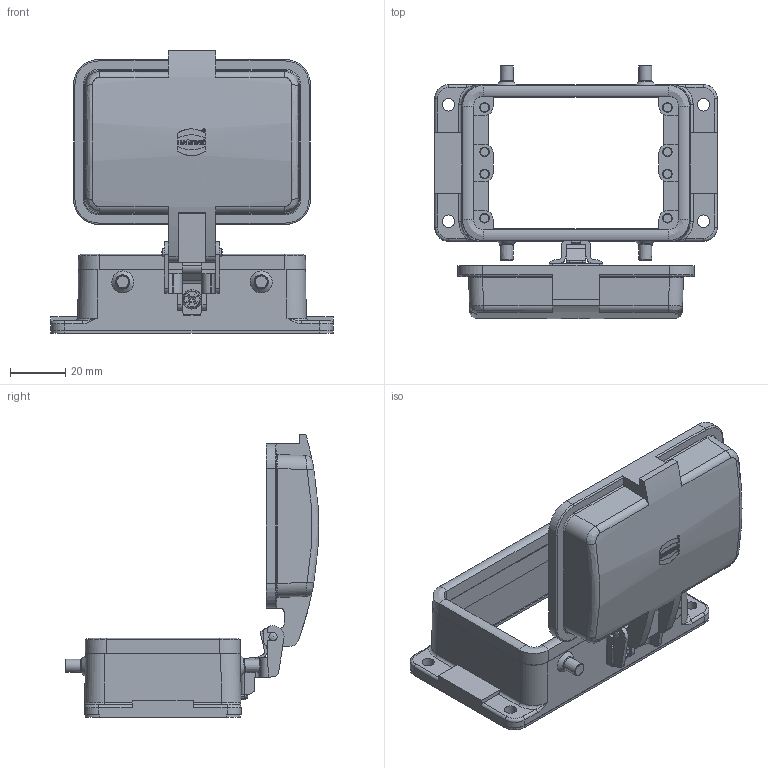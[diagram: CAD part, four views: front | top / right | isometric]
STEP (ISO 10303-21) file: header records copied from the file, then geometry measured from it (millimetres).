
FILE_DESCRIPTION(/* description */ (''),/* implementation_level */ '2;1');
FILE_NAME(/* name */ '100169732ugm000_c.stp',/* time_stamp */ '2022-03-11T14:36:56+01:00',/* author */ (''),/* organization */ (''),/* preprocessor_version */ 'ST-DEVELOPER v16.7',/* originating_system */ 'SIEMENS PLM Software NX 1911',/* authorisation */ '');
FILE_SCHEMA (('AUTOMOTIVE_DESIGN { 1 0 10303 214 3 1 1 1 }'));
Length unit declared in the file: millimetre
Products named in the file (1): 100169732ugm000_c
Bounding box: 102 x 91.49 x 102.1 mm (x, y, z)
Volume: 56877.1 mm3; surface area: 42503.6 mm2
Topology: 2 solids, 2 shells, 659 faces, 1708 edges, 1077 vertices
Faces by surface type: plane 323, cylinder 175, bspline 72, cone 49, torus 24, extrusion 14, sphere 2
Full cylindrical faces by diameter (mm): 0.671 x1, 0.984 x1, 3 x10, 4.5 x4, 4.7 x2, 5 x4, 7 x1
Entity records: 25842 total; most frequent: CARTESIAN_POINT 7243, ORIENTED_EDGE 3236, DIRECTION 3131, EDGE_CURVE 1618, AXIS2_PLACEMENT_3D 1100, VERTEX_POINT 1050, VECTOR 931, LINE 917
